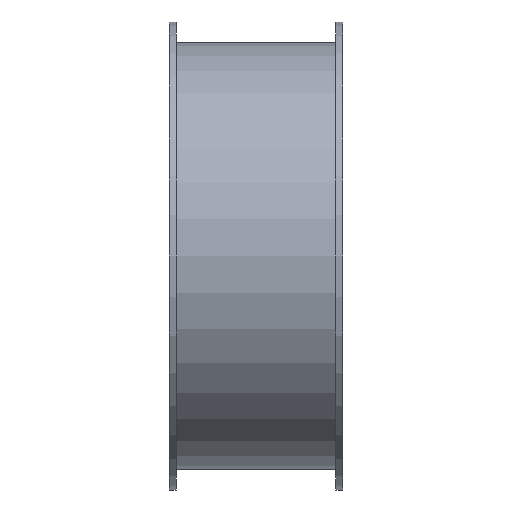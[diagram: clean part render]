
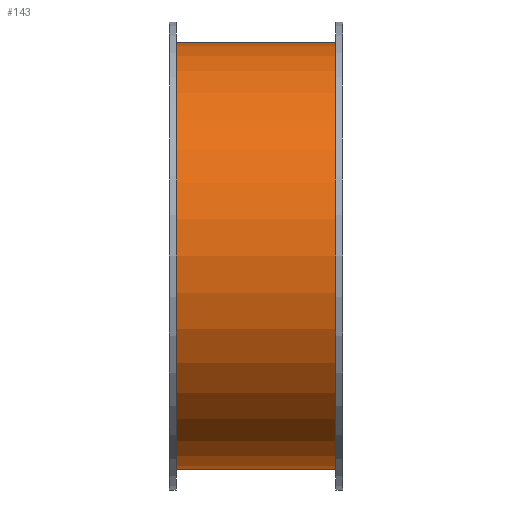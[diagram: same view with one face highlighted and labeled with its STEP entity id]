
A CAD part, front view. The second image highlights one B-rep face of the part: STEP entity #143.
In plain terms, the highlighted cylindrical face has radius 61.5 mm (diameter 123 mm), a full revolution.
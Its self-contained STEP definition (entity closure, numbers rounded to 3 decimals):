
#112=CARTESIAN_POINT('',(16.119,2.817,0.0));
#113=VERTEX_POINT('',#112);
#114=CARTESIAN_POINT('',(16.119,64.317,0.0));
#115=DIRECTION('',(-1.0,0.0,0.0));
#116=DIRECTION('',(0.0,-1.0,0.0));
#117=AXIS2_PLACEMENT_3D('',#114,#115,#116);
#118=CIRCLE('',#117,61.5);
#119=EDGE_CURVE('',#113,#113,#118,.T.);
#124=CARTESIAN_POINT('',(-6.881,64.317,0.0));
#125=DIRECTION('',(-1.0,0.,0.0));
#126=DIRECTION('',(0.0,-1.0,0.0));
#127=AXIS2_PLACEMENT_3D('',#124,#125,#126);
#128=CYLINDRICAL_SURFACE('',#127,61.5);
#129=CARTESIAN_POINT('',(-29.881,2.817,0.0));
#130=VERTEX_POINT('',#129);
#131=CARTESIAN_POINT('',(-29.881,64.317,0.0));
#132=DIRECTION('',(-1.0,0.0,0.0));
#133=DIRECTION('',(0.0,-1.0,0.0));
#134=AXIS2_PLACEMENT_3D('',#131,#132,#133);
#135=CIRCLE('',#134,61.5);
#136=EDGE_CURVE('',#130,#130,#135,.T.);
#137=ORIENTED_EDGE('',*,*,#136,.F.);
#138=EDGE_LOOP('',(#137));
#139=FACE_OUTER_BOUND('',#138,.T.);
#140=ORIENTED_EDGE('',*,*,#119,.T.);
#141=EDGE_LOOP('',(#140));
#142=FACE_BOUND('',#141,.T.);
#143=ADVANCED_FACE('',(#139,#142),#128,.T.);
